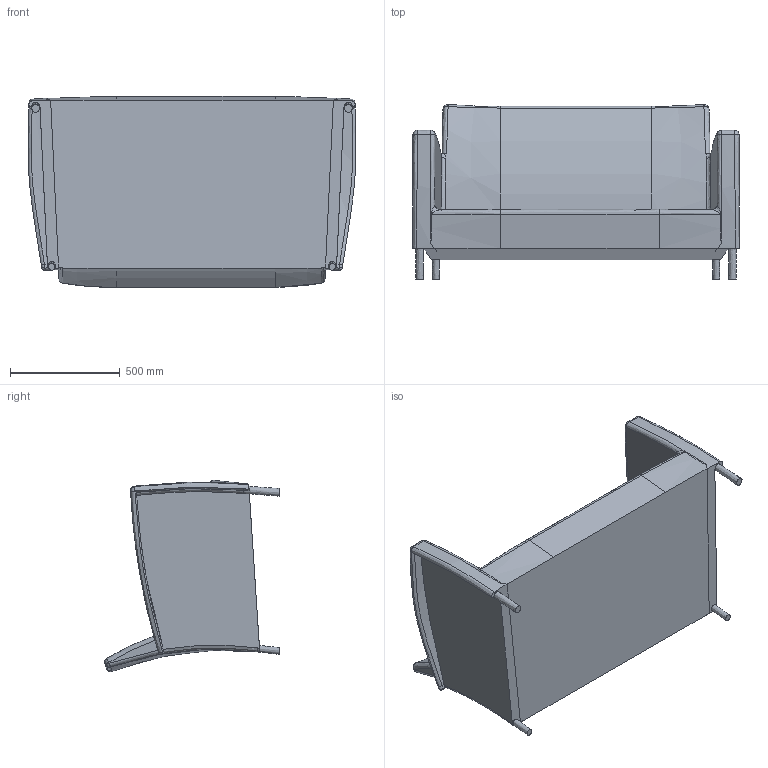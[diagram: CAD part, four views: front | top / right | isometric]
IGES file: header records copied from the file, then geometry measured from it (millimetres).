
Global section: file name: VincentSheppard_DovileSofa2S; native system: unknown; preprocessor: unknown; author: ict@vincentsheppard.com; organization: unknown; date: 20180515.140114; units: millimetre
Bounding box: 1494.59 x 797.81 x 871.82 mm (x, y, z)
Volume: 274387988.2 mm3; surface area: 5355182.6 mm2
Topology: 1 solids, 1 shells, 122 faces, 321 edges, 203 vertices
Faces by surface type: bspline 122
